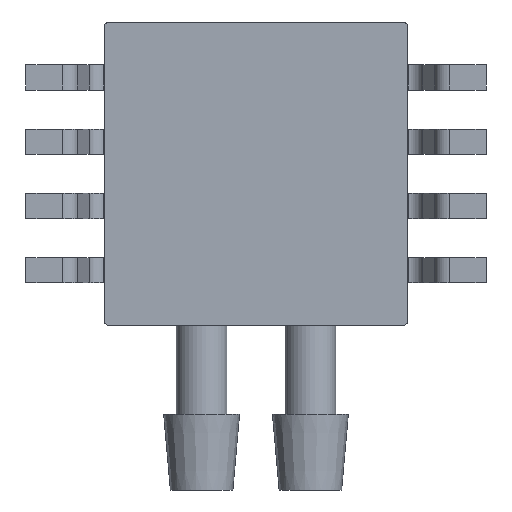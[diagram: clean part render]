
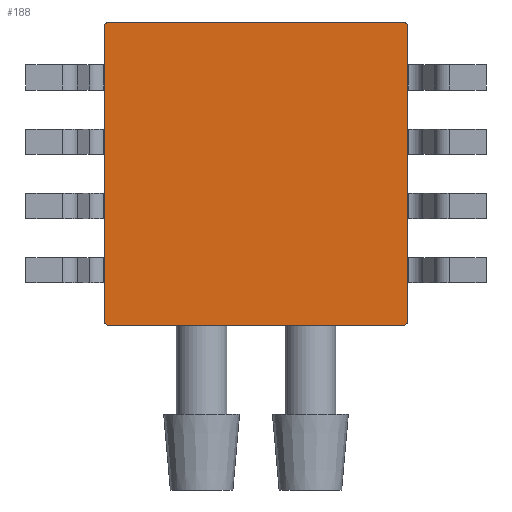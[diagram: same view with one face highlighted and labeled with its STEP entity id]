
A CAD part, front view. The second image highlights one B-rep face of the part: STEP entity #188.
In plain terms, the highlighted planar face has unit normal (0, -1, 0).
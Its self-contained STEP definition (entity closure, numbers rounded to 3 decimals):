
#150 = EDGE_CURVE ( 'NONE', #5126, #5200, #565, .T. ) ;
#155 = EDGE_CURVE ( 'NONE', #5204, #5152, #563, .T. ) ;
#173 = EDGE_CURVE ( 'NONE', #5152, #5124, #1219, .T. ) ;
#176 = EDGE_CURVE ( 'NONE', #5124, #5126, #1223, .T. ) ;
#188 = ADVANCED_FACE ( 'NONE', ( #1269 ), #1257, .F. ) ;
#207 = EDGE_CURVE ( 'NONE', #5202, #5203, #1442, .T. ) ;
#208 = EDGE_CURVE ( 'NONE', #5201, #5184, #1443, .T. ) ;
#212 = EDGE_CURVE ( 'NONE', #5203, #5204, #1956, .T. ) ;
#216 = EDGE_CURVE ( 'NONE', #5184, #5202, #1968, .T. ) ;
#218 = EDGE_CURVE ( 'NONE', #5200, #5201, #1949, .T. ) ;
#563 = CIRCLE ( 'NONE', #580, 0.2 ) ;
#565 = CIRCLE ( 'NONE', #577, 0.2 ) ;
#577 = AXIS2_PLACEMENT_3D ( 'NONE', #1152, #1153, #1154 ) ;
#580 = AXIS2_PLACEMENT_3D ( 'NONE', #1169, #1170, #1171 ) ;
#717 = AXIS2_PLACEMENT_3D ( 'NONE', #1264, #1271, #1272 ) ;
#723 = VECTOR ( 'NONE', #1230, 1000. ) ;
#808 = ORIENTED_EDGE ( 'NONE', *, *, #218, .T. ) ;
#809 = ORIENTED_EDGE ( 'NONE', *, *, #208, .T. ) ;
#1152 = CARTESIAN_POINT ( 'NONE',  ( 5.8, -3.5, -5.8 ) ) ;
#1153 = DIRECTION ( 'NONE',  ( 0., -1., 0. ) ) ;
#1154 = DIRECTION ( 'NONE',  ( 0., 0., 1. ) ) ;
#1169 = CARTESIAN_POINT ( 'NONE',  ( -5.8, -3.5, -5.8 ) ) ;
#1170 = DIRECTION ( 'NONE',  ( 0., -1., 0. ) ) ;
#1171 = DIRECTION ( 'NONE',  ( 0., 0., 1. ) ) ;
#1219 = LINE ( 'NONE', #1220, #6239 ) ;
#1220 = CARTESIAN_POINT ( 'NONE',  ( -6., -3.5, -6. ) ) ;
#1221 = DIRECTION ( 'NONE',  ( 1., 0., 0. ) ) ;
#1222 = CARTESIAN_POINT ( 'NONE',  ( -6., -3.5, -6. ) ) ;
#1223 = LINE ( 'NONE', #1222, #723 ) ;
#1230 = DIRECTION ( 'NONE',  ( 1., 0., 0. ) ) ;
#1257 = PLANE ( 'NONE',  #717 ) ;
#1264 = CARTESIAN_POINT ( 'NONE',  ( 6., -3.5, 6. ) ) ;
#1269 = FACE_OUTER_BOUND ( 'NONE', #4914, .T. ) ;
#1271 = DIRECTION ( 'NONE',  ( 0., 1., 0. ) ) ;
#1272 = DIRECTION ( 'NONE',  ( 0., 0., 1. ) ) ;
#1441 = AXIS2_PLACEMENT_3D ( 'NONE', #1941, #1942, #1943 ) ;
#1442 = CIRCLE ( 'NONE', #1441, 0.2 ) ;
#1443 = CIRCLE ( 'NONE', #1446, 0.2 ) ;
#1446 = AXIS2_PLACEMENT_3D ( 'NONE', #1946, #1947, #1948 ) ;
#1449 = VECTOR ( 'NONE', #1958, 1000. ) ;
#1451 = VECTOR ( 'NONE', #1976, 1000. ) ;
#1453 = VECTOR ( 'NONE', #1970, 1000. ) ;
#1941 = CARTESIAN_POINT ( 'NONE',  ( -5.8, -3.5, 5.8 ) ) ;
#1942 = DIRECTION ( 'NONE',  ( 0., -1., 0. ) ) ;
#1943 = DIRECTION ( 'NONE',  ( 0., 0., 1. ) ) ;
#1946 = CARTESIAN_POINT ( 'NONE',  ( 5.8, -3.5, 5.8 ) ) ;
#1947 = DIRECTION ( 'NONE',  ( 0., -1., 0. ) ) ;
#1948 = DIRECTION ( 'NONE',  ( 0., 0., 1. ) ) ;
#1949 = LINE ( 'NONE', #1975, #1451 ) ;
#1956 = LINE ( 'NONE', #1957, #1449 ) ;
#1957 = CARTESIAN_POINT ( 'NONE',  ( -6., -3.5, -6. ) ) ;
#1958 = DIRECTION ( 'NONE',  ( 0., 0., -1. ) ) ;
#1968 = LINE ( 'NONE', #1969, #1453 ) ;
#1969 = CARTESIAN_POINT ( 'NONE',  ( -6., -3.5, 6. ) ) ;
#1970 = DIRECTION ( 'NONE',  ( -1., 0., 0. ) ) ;
#1975 = CARTESIAN_POINT ( 'NONE',  ( 6., -3.5, -6. ) ) ;
#1976 = DIRECTION ( 'NONE',  ( 0., 0., 1. ) ) ;
#3904 = CARTESIAN_POINT ( 'NONE',  ( 5.8, -3.5, -6. ) ) ;
#3908 = CARTESIAN_POINT ( 'NONE',  ( -2.15, -3.5, -6. ) ) ;
#3934 = CARTESIAN_POINT ( 'NONE',  ( -5.8, -3.5, -6. ) ) ;
#3966 = CARTESIAN_POINT ( 'NONE',  ( 5.8, -3.5, 6. ) ) ;
#3982 = CARTESIAN_POINT ( 'NONE',  ( 6., -3.5, -5.8 ) ) ;
#3983 = CARTESIAN_POINT ( 'NONE',  ( 6., -3.5, 5.8 ) ) ;
#3984 = CARTESIAN_POINT ( 'NONE',  ( -5.8, -3.5, 6. ) ) ;
#3985 = CARTESIAN_POINT ( 'NONE',  ( -6., -3.5, 5.8 ) ) ;
#3986 = CARTESIAN_POINT ( 'NONE',  ( -6., -3.5, -5.8 ) ) ;
#4914 = EDGE_LOOP ( 'NONE', ( #808, #809, #5074, #5075, #5073, #5072, #5071, #5054, #5053 ) ) ;
#5053 = ORIENTED_EDGE ( 'NONE', *, *, #150, .T. ) ;
#5054 = ORIENTED_EDGE ( 'NONE', *, *, #176, .T. ) ;
#5071 = ORIENTED_EDGE ( 'NONE', *, *, #173, .T. ) ;
#5072 = ORIENTED_EDGE ( 'NONE', *, *, #155, .T. ) ;
#5073 = ORIENTED_EDGE ( 'NONE', *, *, #212, .T. ) ;
#5074 = ORIENTED_EDGE ( 'NONE', *, *, #216, .T. ) ;
#5075 = ORIENTED_EDGE ( 'NONE', *, *, #207, .T. ) ;
#5124 = VERTEX_POINT ( 'NONE', #3908 ) ;
#5126 = VERTEX_POINT ( 'NONE', #3904 ) ;
#5152 = VERTEX_POINT ( 'NONE', #3934 ) ;
#5184 = VERTEX_POINT ( 'NONE', #3966 ) ;
#5200 = VERTEX_POINT ( 'NONE', #3982 ) ;
#5201 = VERTEX_POINT ( 'NONE', #3983 ) ;
#5202 = VERTEX_POINT ( 'NONE', #3984 ) ;
#5203 = VERTEX_POINT ( 'NONE', #3985 ) ;
#5204 = VERTEX_POINT ( 'NONE', #3986 ) ;
#6239 = VECTOR ( 'NONE', #1221, 1000. ) ;
